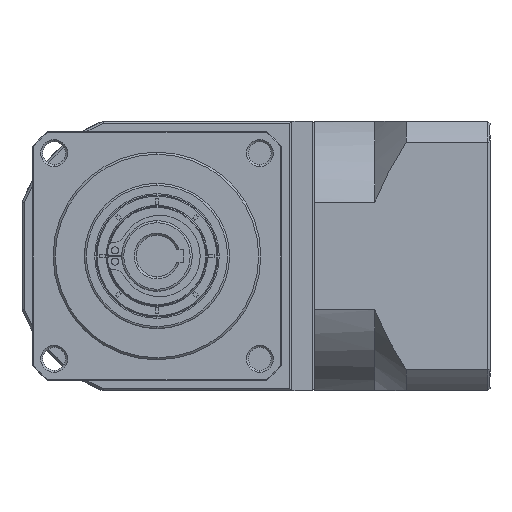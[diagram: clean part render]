
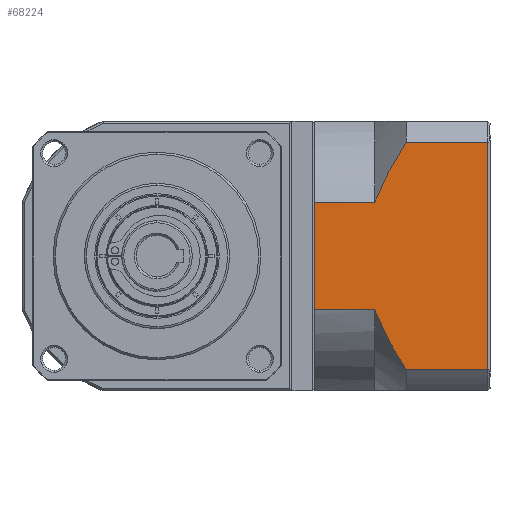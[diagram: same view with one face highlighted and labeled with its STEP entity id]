
A CAD part, left-side view. The second image highlights one B-rep face of the part: STEP entity #68224.
In plain terms, the highlighted planar face has unit normal (-1, 0, 0).
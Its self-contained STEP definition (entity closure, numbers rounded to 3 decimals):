
#2635 = CARTESIAN_POINT ( 'NONE',  ( -22.541, -100.746, -97.39 ) ) ;
#2748 = CARTESIAN_POINT ( 'NONE',  ( -22.541, -86.246, -123.37 ) ) ;
#5296 = CARTESIAN_POINT ( 'NONE',  ( -22.541, -128.446, -142.88 ) ) ;
#7944 = EDGE_CURVE ( 'NONE', #133125, #114626, #100040, .T. ) ;
#9212 = ORIENTED_EDGE ( 'NONE', *, *, #25192, .T. ) ;
#9712 = VECTOR ( 'NONE', #126542, 1000. ) ;
#9967 = VECTOR ( 'NONE', #24791, 1000. ) ;
#13446 = LINE ( 'NONE', #101133, #9712 ) ;
#17235 = DIRECTION ( 'NONE',  ( 0., 1., 0. ) ) ;
#17732 = VERTEX_POINT ( 'NONE', #99241 ) ;
#21660 = CARTESIAN_POINT ( 'NONE',  ( -22.541, -106.797, -85.283 ) ) ;
#24452 = CARTESIAN_POINT ( 'NONE',  ( -22.541, -101.237, -124.652 ) ) ;
#24791 = DIRECTION ( 'NONE',  ( 0., -1., 0. ) ) ;
#25192 = EDGE_CURVE ( 'NONE', #32725, #88578, #68526, .T. ) ;
#32725 = VERTEX_POINT ( 'NONE', #69072 ) ;
#33658 = CARTESIAN_POINT ( 'NONE',  ( -22.541, -105.413, -87.618 ) ) ;
#34391 = DIRECTION ( 'NONE',  ( 0., 1., 0. ) ) ;
#36460 = CARTESIAN_POINT ( 'NONE',  ( -22.541, -102.036, -126.537 ) ) ;
#36973 = VECTOR ( 'NONE', #34391, 1000. ) ;
#37185 = ORIENTED_EDGE ( 'NONE', *, *, #108345, .F. ) ;
#43230 = CARTESIAN_POINT ( 'NONE',  ( -22.541, -127.946, -82.994 ) ) ;
#45673 = CARTESIAN_POINT ( 'NONE',  ( -22.541, -102.832, -92.4 ) ) ;
#46690 = EDGE_CURVE ( 'NONE', #54968, #101369, #124941, .T. ) ;
#47227 = CARTESIAN_POINT ( 'NONE',  ( -22.541, -100.746, -123.37 ) ) ;
#48440 = CARTESIAN_POINT ( 'NONE',  ( -22.541, -103.492, -129.603 ) ) ;
#53425 = DIRECTION ( 'NONE',  ( 0., 0., -1. ) ) ;
#54968 = VERTEX_POINT ( 'NONE', #67253 ) ;
#55885 = LINE ( 'NONE', #143469, #87434 ) ;
#57539 = CARTESIAN_POINT ( 'NONE',  ( -22.541, -100.746, -97.39 ) ) ;
#60316 = CARTESIAN_POINT ( 'NONE',  ( -22.541, -100.746, -137.766 ) ) ;
#60325 = CARTESIAN_POINT ( 'NONE',  ( -22.541, -106.784, -135.498 ) ) ;
#60476 = DIRECTION ( 'NONE',  ( 0., -1., 0. ) ) ;
#64919 = FACE_OUTER_BOUND ( 'NONE', #87199, .T. ) ;
#67253 = CARTESIAN_POINT ( 'NONE',  ( -22.541, -127.946, -137.766 ) ) ;
#68224 = ADVANCED_FACE ( 'NONE', ( #64919 ), #111781, .F. ) ;
#68526 = B_SPLINE_CURVE_WITH_KNOTS ( 'NONE', 3,
 ( #104722, #68945, #21660, #33658, #116678, #45673, #128623, #57539 ),
 .UNSPECIFIED., .F., .F.,
 ( 4, 2, 2, 4 ),
 ( 0.058, 0.062, 0.066, 0.074 ),
 .UNSPECIFIED. ) ;
#68945 = CARTESIAN_POINT ( 'NONE',  ( -22.541, -107.512, -84.132 ) ) ;
#69072 = CARTESIAN_POINT ( 'NONE',  ( -22.541, -108.246, -82.994 ) ) ;
#71762 = CARTESIAN_POINT ( 'NONE',  ( -22.541, -100.984, -124.013 ) ) ;
#74499 = LINE ( 'NONE', #112500, #105985 ) ;
#76030 = ORIENTED_EDGE ( 'NONE', *, *, #46690, .F. ) ;
#83068 = CARTESIAN_POINT ( 'NONE',  ( -22.541, -108.246, -137.766 ) ) ;
#83699 = CARTESIAN_POINT ( 'NONE',  ( -22.541, -100.746, -123.37 ) ) ;
#87199 = EDGE_LOOP ( 'NONE', ( #76030, #109461, #37185, #9212, #120521, #126136, #148530, #120672 ) ) ;
#87434 = VECTOR ( 'NONE', #60476, 1000. ) ;
#88458 = DIRECTION ( 'NONE',  ( 1., 0., 0. ) ) ;
#88578 = VERTEX_POINT ( 'NONE', #2635 ) ;
#95880 = CARTESIAN_POINT ( 'NONE',  ( -22.541, -100.746, -97.39 ) ) ;
#99241 = CARTESIAN_POINT ( 'NONE',  ( -22.541, -86.246, -97.39 ) ) ;
#99639 = AXIS2_PLACEMENT_3D ( 'NONE', #5296, #88458, #17235 ) ;
#100040 = LINE ( 'NONE', #152218, #36973 ) ;
#101024 = LINE ( 'NONE', #95880, #9967 ) ;
#101133 = CARTESIAN_POINT ( 'NONE',  ( -22.541, -127.946, -142.88 ) ) ;
#101369 = VERTEX_POINT ( 'NONE', #83068 ) ;
#103298 = VERTEX_POINT ( 'NONE', #43230 ) ;
#104722 = CARTESIAN_POINT ( 'NONE',  ( -22.541, -108.246, -82.994 ) ) ;
#105985 = VECTOR ( 'NONE', #53425, 1000. ) ;
#107471 = CARTESIAN_POINT ( 'NONE',  ( -22.541, -101.762, -125.913 ) ) ;
#108345 = EDGE_CURVE ( 'NONE', #32725, #103298, #55885, .T. ) ;
#109461 = ORIENTED_EDGE ( 'NONE', *, *, #148705, .T. ) ;
#111781 = PLANE ( 'NONE',  #99639 ) ;
#112500 = CARTESIAN_POINT ( 'NONE',  ( -22.541, -86.246, -142.88 ) ) ;
#114626 = VERTEX_POINT ( 'NONE', #2748 ) ;
#116678 = CARTESIAN_POINT ( 'NONE',  ( -22.541, -104.743, -88.804 ) ) ;
#119458 = CARTESIAN_POINT ( 'NONE',  ( -22.541, -102.886, -128.391 ) ) ;
#120521 = ORIENTED_EDGE ( 'NONE', *, *, #142623, .F. ) ;
#120672 = ORIENTED_EDGE ( 'NONE', *, *, #151717, .T. ) ;
#124941 = LINE ( 'NONE', #60316, #152861 ) ;
#126136 = ORIENTED_EDGE ( 'NONE', *, *, #150177, .T. ) ;
#126542 = DIRECTION ( 'NONE',  ( 0., 0., 1. ) ) ;
#128623 = CARTESIAN_POINT ( 'NONE',  ( -22.541, -101.688, -94.852 ) ) ;
#131420 = CARTESIAN_POINT ( 'NONE',  ( -22.541, -105.396, -133.184 ) ) ;
#133125 = VERTEX_POINT ( 'NONE', #47227 ) ;
#142623 = EDGE_CURVE ( 'NONE', #17732, #88578, #101024, .T. ) ;
#143307 = DIRECTION ( 'NONE',  ( 0., 1., 0. ) ) ;
#143313 = CARTESIAN_POINT ( 'NONE',  ( -22.541, -108.246, -137.766 ) ) ;
#143469 = CARTESIAN_POINT ( 'NONE',  ( -22.541, -100.746, -82.994 ) ) ;
#148530 = ORIENTED_EDGE ( 'NONE', *, *, #7944, .F. ) ;
#148705 = EDGE_CURVE ( 'NONE', #54968, #103298, #13446, .T. ) ;
#150177 = EDGE_CURVE ( 'NONE', #17732, #114626, #74499, .T. ) ;
#150409 = B_SPLINE_CURVE_WITH_KNOTS ( 'NONE', 3,
 ( #83699, #71762, #24452, #107471, #36460, #119458, #48440, #131420, #60325, #143313 ),
 .UNSPECIFIED., .F., .F.,
 ( 4, 2, 2, 2, 4 ),
 ( 0.101, 0.103, 0.105, 0.109, 0.117 ),
 .UNSPECIFIED. ) ;
#151717 = EDGE_CURVE ( 'NONE', #133125, #101369, #150409, .T. ) ;
#152218 = CARTESIAN_POINT ( 'NONE',  ( -22.541, -100.746, -123.37 ) ) ;
#152861 = VECTOR ( 'NONE', #143307, 1000. ) ;
